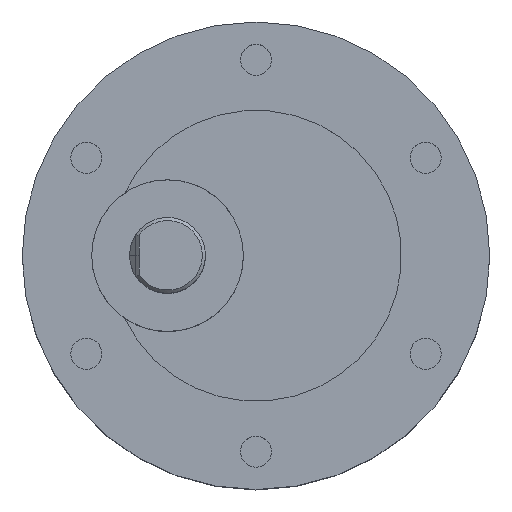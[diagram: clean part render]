
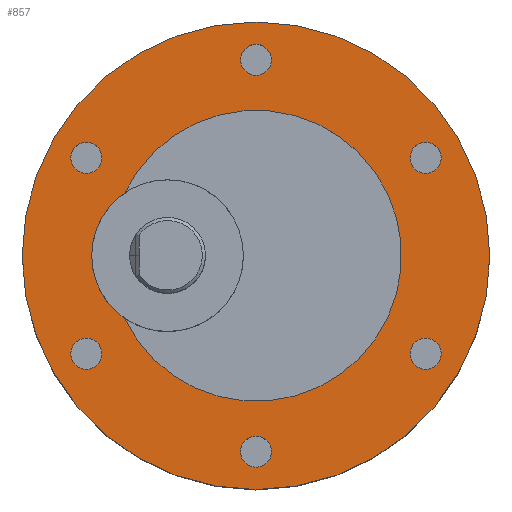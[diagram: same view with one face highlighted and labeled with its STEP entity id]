
A CAD part, top view. The second image highlights one B-rep face of the part: STEP entity #857.
In plain terms, the highlighted planar face has unit normal (0, 0, 1).
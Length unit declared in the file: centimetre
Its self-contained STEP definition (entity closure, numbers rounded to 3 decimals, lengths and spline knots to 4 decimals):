
#288=VERTEX_POINT('',#3100);
#290=VERTEX_POINT('',#3106);
#292=VERTEX_POINT('',#3112);
#294=VERTEX_POINT('',#3118);
#296=VERTEX_POINT('',#3124);
#298=VERTEX_POINT('',#3130);
#301=VERTEX_POINT('',#3137);
#302=VERTEX_POINT('',#3139);
#303=VERTEX_POINT('',#3145);
#386=EDGE_CURVE('',#288,#288,#1682,.T.);
#388=EDGE_CURVE('',#290,#290,#1684,.T.);
#390=EDGE_CURVE('',#292,#292,#1686,.T.);
#392=EDGE_CURVE('',#294,#294,#1688,.T.);
#394=EDGE_CURVE('',#296,#296,#1690,.T.);
#396=EDGE_CURVE('',#298,#298,#1692,.T.);
#399=EDGE_CURVE('',#302,#301,#1694,.T.);
#402=EDGE_CURVE('',#303,#303,#1696,.T.);
#403=EDGE_CURVE('',#301,#302,#1697,.T.);
#581=ORIENTED_EDGE('',*,*,#386,.T.);
#582=ORIENTED_EDGE('',*,*,#388,.T.);
#583=ORIENTED_EDGE('',*,*,#390,.T.);
#584=ORIENTED_EDGE('',*,*,#392,.T.);
#585=ORIENTED_EDGE('',*,*,#394,.T.);
#586=ORIENTED_EDGE('',*,*,#396,.T.);
#587=ORIENTED_EDGE('',*,*,#402,.F.);
#588=ORIENTED_EDGE('',*,*,#399,.T.);
#589=ORIENTED_EDGE('',*,*,#403,.T.);
#701=EDGE_LOOP('',(#581));
#702=EDGE_LOOP('',(#582));
#703=EDGE_LOOP('',(#583));
#704=EDGE_LOOP('',(#584));
#705=EDGE_LOOP('',(#585));
#706=EDGE_LOOP('',(#586));
#707=EDGE_LOOP('',(#587));
#708=EDGE_LOOP('',(#588,#589));
#787=FACE_BOUND('',#701,.T.);
#788=FACE_BOUND('',#702,.T.);
#789=FACE_BOUND('',#703,.T.);
#790=FACE_BOUND('',#704,.T.);
#791=FACE_BOUND('',#705,.T.);
#792=FACE_BOUND('',#706,.T.);
#793=FACE_BOUND('',#707,.T.);
#794=FACE_BOUND('',#708,.T.);
#857=ADVANCED_FACE('',(#787,#788,#789,#790,#791,#792,#793,#794),#2319,.T.);
#1682=CIRCLE('',#2099,0.123);
#1684=CIRCLE('',#2103,0.123);
#1686=CIRCLE('',#2107,0.123);
#1688=CIRCLE('',#2111,0.123);
#1690=CIRCLE('',#2115,0.123);
#1692=CIRCLE('',#2119,0.123);
#1694=CIRCLE('',#2123,1.1513);
#1696=CIRCLE('',#2127,1.85);
#1697=CIRCLE('',#2128,0.6);
#2099=AXIS2_PLACEMENT_3D('',#3099,#2635,#2636);
#2103=AXIS2_PLACEMENT_3D('',#3105,#2642,#2643);
#2107=AXIS2_PLACEMENT_3D('',#3111,#2649,#2650);
#2111=AXIS2_PLACEMENT_3D('',#3117,#2656,#2657);
#2115=AXIS2_PLACEMENT_3D('',#3123,#2663,#2664);
#2119=AXIS2_PLACEMENT_3D('',#3129,#2670,#2671);
#2123=AXIS2_PLACEMENT_3D('',#3138,#2678,#2679);
#2126=AXIS2_PLACEMENT_3D('',#3143,#2684,$);
#2127=AXIS2_PLACEMENT_3D('',#3144,#2685,#2686);
#2128=AXIS2_PLACEMENT_3D('',#3146,#2687,#2688);
#2319=PLANE('',#2126);
#2635=DIRECTION('',(0.,0.,-1.));
#2636=DIRECTION('',(0.,0.123,0.));
#2642=DIRECTION('',(0.,0.,-1.));
#2643=DIRECTION('',(0.,0.123,0.));
#2649=DIRECTION('',(0.,0.,-1.));
#2650=DIRECTION('',(0.,0.123,0.));
#2656=DIRECTION('',(0.,0.,-1.));
#2657=DIRECTION('',(0.,0.123,0.));
#2663=DIRECTION('',(0.,0.,-1.));
#2664=DIRECTION('',(0.,0.123,0.));
#2670=DIRECTION('',(0.,0.,-1.));
#2671=DIRECTION('',(0.,0.123,0.));
#2678=DIRECTION('',(0.,0.,-1.));
#2679=DIRECTION('',(1.151,0.,0.));
#2684=DIRECTION('',(0.,0.,1.));
#2685=DIRECTION('',(0.,0.,-1.));
#2686=DIRECTION('',(1.85,0.,0.));
#2687=DIRECTION('',(0.,0.,-1.));
#2688=DIRECTION('',(0.6,0.,0.));
#3099=CARTESIAN_POINT('',(-1.3423,-0.775,4.3));
#3100=CARTESIAN_POINT('',(-1.3423,-0.6521,4.3));
#3105=CARTESIAN_POINT('',(0.,-1.55,4.3));
#3106=CARTESIAN_POINT('',(0.,-1.4271,4.3));
#3111=CARTESIAN_POINT('',(1.3423,-0.775,4.3));
#3112=CARTESIAN_POINT('',(1.3423,-0.652,4.3));
#3117=CARTESIAN_POINT('',(1.3423,0.775,4.3));
#3118=CARTESIAN_POINT('',(1.3423,0.898,4.3));
#3123=CARTESIAN_POINT('',(-1.3423,0.775,4.3));
#3124=CARTESIAN_POINT('',(-1.3423,0.8979,4.3));
#3129=CARTESIAN_POINT('',(0.,1.55,4.3));
#3130=CARTESIAN_POINT('',(0.,1.673,4.3));
#3137=CARTESIAN_POINT('',(-1.0396,-0.4946,4.3));
#3138=CARTESIAN_POINT('',(0.,0.,4.3));
#3139=CARTESIAN_POINT('',(-1.0396,0.4946,4.3));
#3143=CARTESIAN_POINT('',(0.,0.,4.3));
#3144=CARTESIAN_POINT('',(0.,0.,4.3));
#3145=CARTESIAN_POINT('',(1.85,0.,4.3));
#3146=CARTESIAN_POINT('',(-0.7,0.,4.3));
